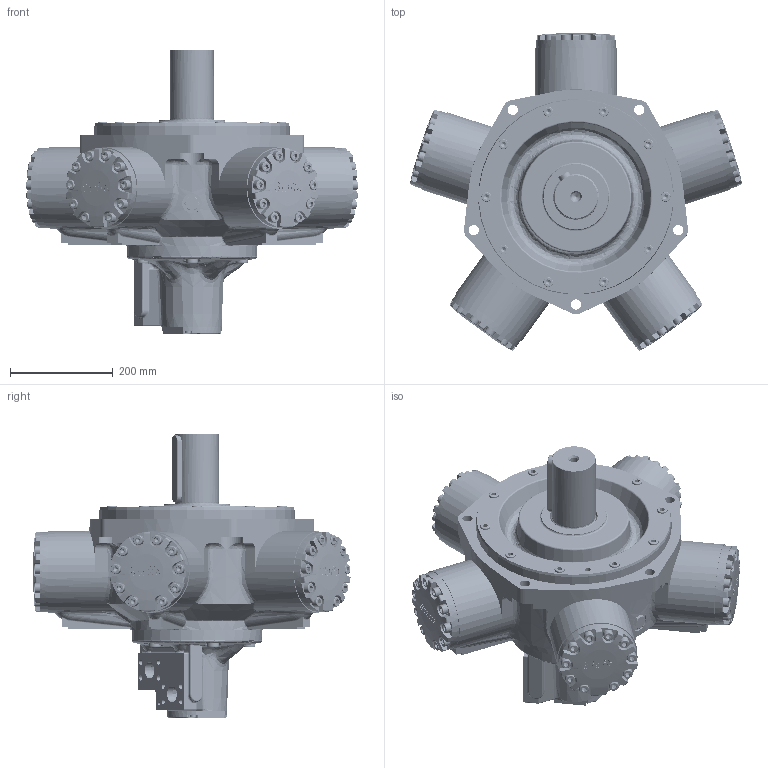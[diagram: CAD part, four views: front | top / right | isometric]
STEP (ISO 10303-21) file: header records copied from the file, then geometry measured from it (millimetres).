
FILE_DESCRIPTION((''),'2;1');
FILE_NAME('I:\3D Step files\Approved for WEB\Staffa\HMB150-200 P1 FM3 70.stp','2010-06-29T08:41:11',('mnorman'),(''),'Autodesk Inventor 2010','Autodesk Inventor 2010','');
FILE_SCHEMA(('AUTOMOTIVE_DESIGN { 1 0 10303 214 1 1 1 1 }'));
Length unit declared in the file: inch
Products named in the file (11): HMB150_200 P1 FM3 70; 27725 B200 MOTORCASE; 103-001 B150 B200 FRONT COVER rev A; Hexagon Socket Head Cap Screw - UNF (Fine Thread - Inch) 5/8-18 UNF - 3.75; 26042 CYL HEAD; Hexagon Socket Head Cap Screw - UNF (Fine Thread - Inch) 1/2-20 UNF - 0.5; 63191 - 0.75 UNF DRAIN PLUG; Hexagon Socket Head Cap Screw - UNF (Fine Thread - Inch) 5/16-24 UNF - 1.75; FRONTEND 25557 B125 B150 B200 P1 SHAFT; 102-010 VLV HSG REAR SHIM rev A; 26128
Assembly tree (82 placements, depth 2):
  HMB150_200 P1 FM3 70
    27725 B200 MOTORCASE
    103-001 B150 B200 FRONT COVER rev A
    Hexagon Socket Head Cap Screw - UNF (Fine Thread - Inch) 5/8-18 UNF - 3.75  x5
    26042 CYL HEAD  x5
    Hexagon Socket Head Cap Screw - UNF (Fine Thread - Inch) 1/2-20 UNF - 0.5  x60
    63191 - 0.75 UNF DRAIN PLUG  x3
    Hexagon Socket Head Cap Screw - UNF (Fine Thread - Inch) 5/16-24 UNF - 1.75  x4
    FRONTEND 25557 B125 B150 B200 P1 SHAFT
    102-010 VLV HSG REAR SHIM rev A
    26128
Bounding box: 646.73 x 617.86 x 553.77 mm (x, y, z)
Volume: 25130111.5 mm3; surface area: 2483058 mm2
Topology: 82 solids, 82 shells, 3809 faces, 9150 edges, 5703 vertices
Faces by surface type: bspline 1468, plane 1270, cylinder 686, cone 207, torus 163, sphere 15
Full cylindrical faces by diameter (mm): 6.2 x1, 7.938 x4, 11.913 x4, 12.7 x60, 13.5 x25, 15.875 x5, 16.272 x5, 19.05 x85, 20.6 x25, 23.825 x5, 25.4 x5, 28.677 x5, 31.75 x2, 38.1 x3, 38.176 x5, 68.58 x1, 71.952 x1, 76.06 x2, 76.205 x1, 85.001 x1, 88.837 x1, 88.951 x1, 92.15 x5, 92.964 x1, 101.485 x10, 101.575 x5, 114.275 x1, 127 x1, 135.666 x1, 135.71 x1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
Entity records: 75032 total; most frequent: CARTESIAN_POINT 43421, ORIENTED_EDGE 6506, DIRECTION 5144, EDGE_CURVE 3253, VERTEX_POINT 2221, EDGE_LOOP 2178, AXIS2_PLACEMENT_3D 2163, FACE_OUTER_BOUND 1555
